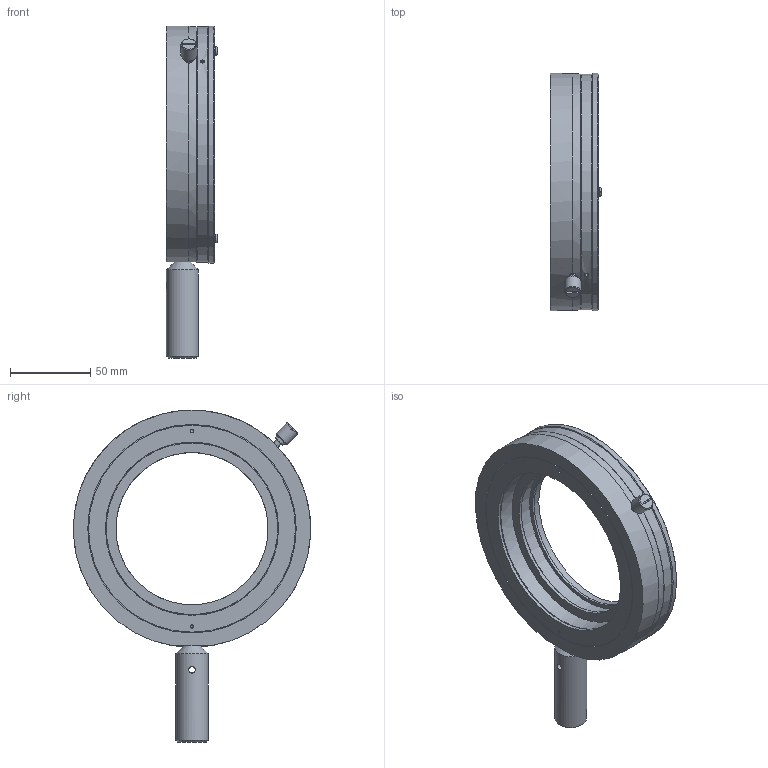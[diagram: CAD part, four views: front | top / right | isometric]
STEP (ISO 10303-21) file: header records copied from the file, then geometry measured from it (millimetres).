
FILE_DESCRIPTION((''),'2;1');
FILE_NAME('Z:\2能登便\カタログ10_電子カタログ\3D_DATA\ホルダー\PH-100-ARS\PH-100-ARS.stp','2012-04-13T13:41:56',('usernoto011'),(''),'Autodesk Inventor 2008','Autodesk Inventor 2008','');
FILE_SCHEMA(('AUTOMOTIVE_DESIGN { 1 0 10303 214 1 1 1 1 }'));
Length unit declared in the file: millimetre
Products named in the file (1): PH100ARS-M02-10001-S07
Bounding box: 31.91 x 148 x 207 mm (x, y, z)
Volume: 277912.9 mm3; surface area: 87223.8 mm2
Topology: 1 solids, 8 shells, 181 faces, 421 edges, 274 vertices
Faces by surface type: plane 78, cylinder 64, cone 23, bspline 12, torus 2, sphere 2
Full cylindrical faces by diameter (mm): 2.4 x1, 3 x2, 4 x2, 7 x1, 10 x1, 20 x1, 95 x3, 100 x2, 100.4 x1, 108 x3, 114 x1, 115 x1, 115.4 x1, 115.5 x1, 116 x3, 117.5 x1, 125 x1, 127 x1, 127.3 x1, 129 x1, 130 x1, 132 x1, 136.4 x1, 137 x2, 144 x1, 147 x1, 148 x1
Entity records: 5277 total; most frequent: CARTESIAN_POINT 1455, DIRECTION 836, ORIENTED_EDGE 644, AXIS2_PLACEMENT_3D 368, EDGE_CURVE 322, EDGE_LOOP 298, VERTEX_POINT 246, CIRCLE 198
